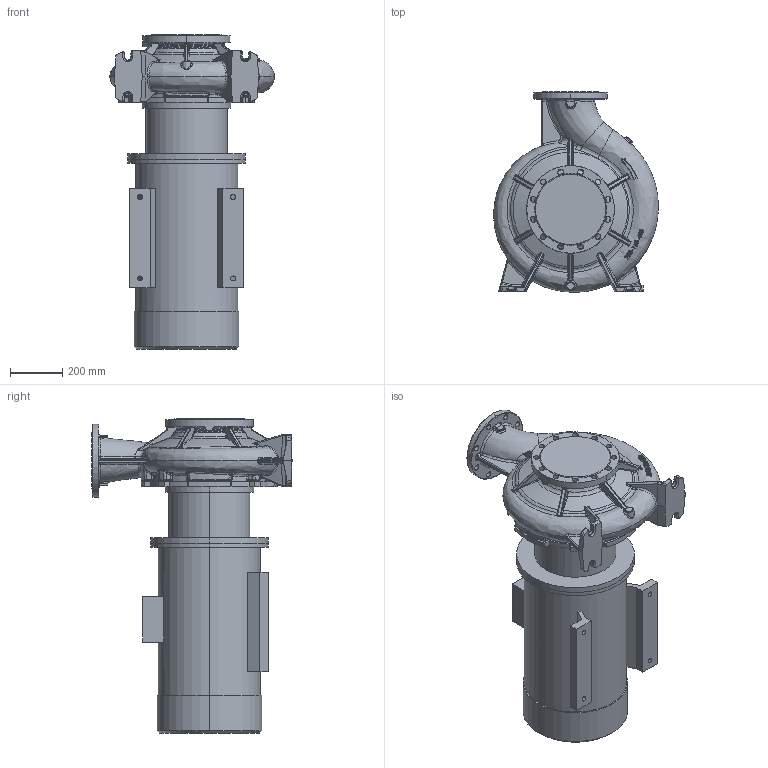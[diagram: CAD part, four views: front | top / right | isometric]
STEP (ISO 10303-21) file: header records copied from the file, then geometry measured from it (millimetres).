
FILE_DESCRIPTION (( 'STEP AP203' ), '1' );
FILE_NAME ('KRM200-150-400-4-45.STEP', '2026-08-13T11:28:48', ( '' ), ( '' ), 'SwSTEP 2.0', 'SolidWorks 2016', '' );
FILE_SCHEMA (( 'CONFIG_CONTROL_DESIGN' ));
Length unit declared in the file: millimetre
Products named in the file (1): KRM200-150-400-4-45
Bounding box: 629.68 x 766.8 x 1200.8 mm (x, y, z)
Volume: 168666424.4 mm3; surface area: 3957515.3 mm2
Topology: 4 solids, 4 shells, 1381 faces, 3460 edges, 2059 vertices
Faces by surface type: bspline 607, cylinder 291, plane 266, torus 108, cone 83, sphere 26
Entity records: 101417 total; most frequent: CARTESIAN_POINT 73504, ORIENTED_EDGE 6812, DIRECTION 4528, EDGE_CURVE 3406, VERTEX_POINT 2059, AXIS2_PLACEMENT_3D 1876, EDGE_LOOP 1455, ADVANCED_FACE 1381
